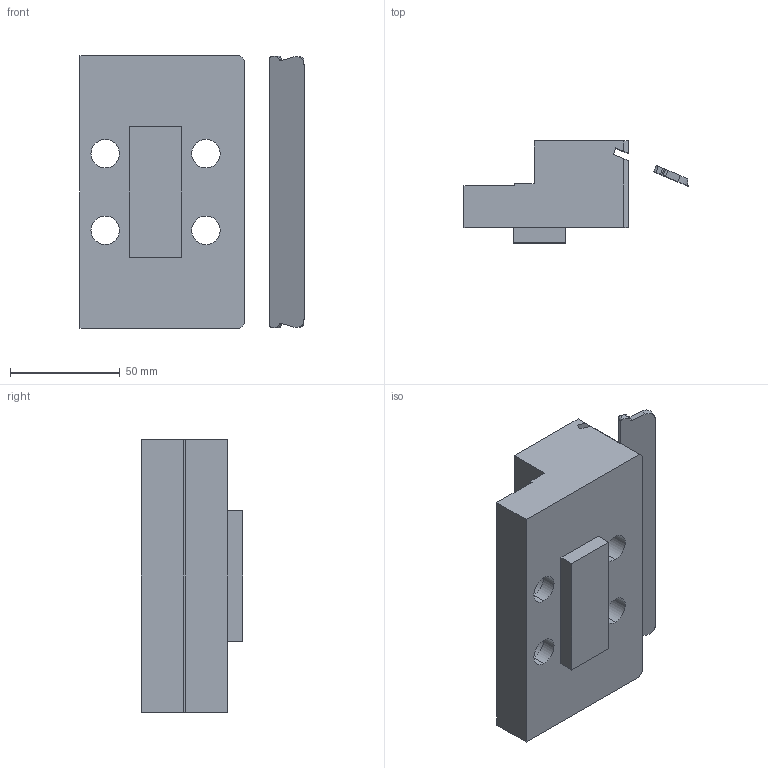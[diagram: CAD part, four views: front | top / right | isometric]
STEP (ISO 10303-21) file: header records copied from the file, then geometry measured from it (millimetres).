
FILE_DESCRIPTION (( 'STEP AP203' ), '1' );
FILE_NAME ('6921684102031_Niederzugbacke_NC125_Mobil.STEP', '2009-03-11T11:39:07', ( 'Markus Römer' ), ( '' ), 'SwSTEP 2.0', 'SolidWorks 2008', '' );
FILE_SCHEMA (( 'CONFIG_CONTROL_DESIGN' ));
Length unit declared in the file: millimetre
Products named in the file (1): 6921684102031_Niederzugbacke_NC125_Mobil
Bounding box: 102.29 x 46.5 x 124.4 mm (x, y, z)
Volume: 278305.7 mm3; surface area: 45325.2 mm2
Topology: 2 solids, 2 shells, 61 faces, 156 edges, 104 vertices
Faces by surface type: plane 37, cylinder 24
Entity records: 1949 total; most frequent: CARTESIAN_POINT 328, DIRECTION 326, ORIENTED_EDGE 312, EDGE_CURVE 156, AXIS2_PLACEMENT_3D 110, VECTOR 106, LINE 106, VERTEX_POINT 104
